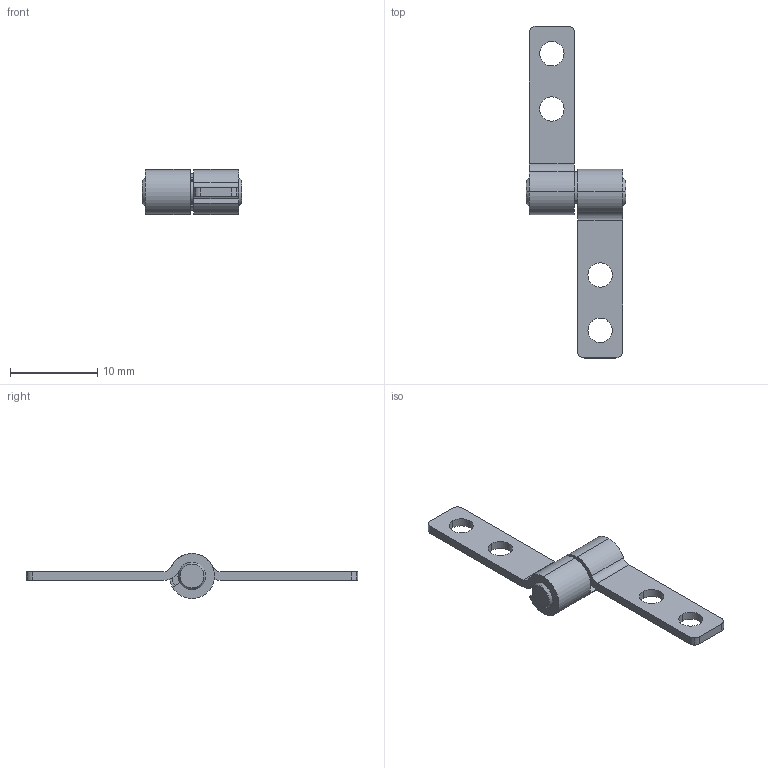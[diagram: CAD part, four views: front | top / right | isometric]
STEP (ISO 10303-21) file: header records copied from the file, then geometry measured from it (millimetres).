
FILE_DESCRIPTION(('STEP AP214'),'1');
FILE_NAME('C:/Users/HAN/Desktop/0500-0011-HNG R Rev 0_0.stp','2015-01-05T16:17:07',(' '),(' '),'Spatial InterOp 3D',' ',' ');
FILE_SCHEMA(('automotive_design'));
Length unit declared in the file: inch
Products named in the file (4): 0500-0011-BND Rev 0_0; 0500-0011-SHA Rev 0_0; Snap Ring 2000-12
Bounding box: 11.46 x 38.1 x 5.17 mm (x, y, z)
Volume: 361 mm3; surface area: 857 mm2
Topology: 4 solids, 4 shells, 76 faces, 194 edges, 128 vertices
Faces by surface type: cylinder 48, plane 24, cone 4
Entity records: 3031 total; most frequent: DIRECTION 454, CARTESIAN_POINT 402, ORIENTED_EDGE 388, EDGE_CURVE 194, AXIS2_PLACEMENT_3D 180, VERTEX_POINT 128, CIRCLE 100, LINE 94
